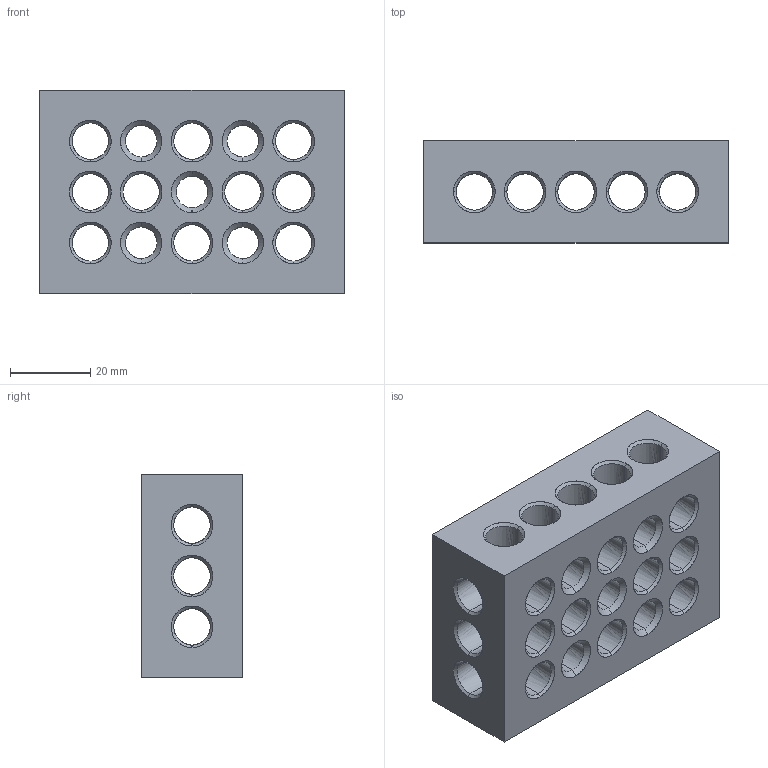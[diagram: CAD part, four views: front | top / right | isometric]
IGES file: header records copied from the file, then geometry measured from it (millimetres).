
Start section: SolidWorks IGES file using analytic representation for surfaces
Global section: file name: R:\Drawings\Files saved as other types\Solid_Models\MODELS FOR PUBLIC\31950_1-2-3_BLOCK.IGS; native system: SolidWorks 2012; preprocessor: SolidWorks 2012; author: rtooley; date: 150106.155128; units: inch
Bounding box: 76.2 x 25.4 x 50.8 mm (x, y, z)
Surface area: 24807.4 mm2 (no closed solid volume)
Topology: 0 solids, 0 shells, 234 faces, 5028 edges, 5028 vertices
Faces by surface type: revolution 228, bspline 6
